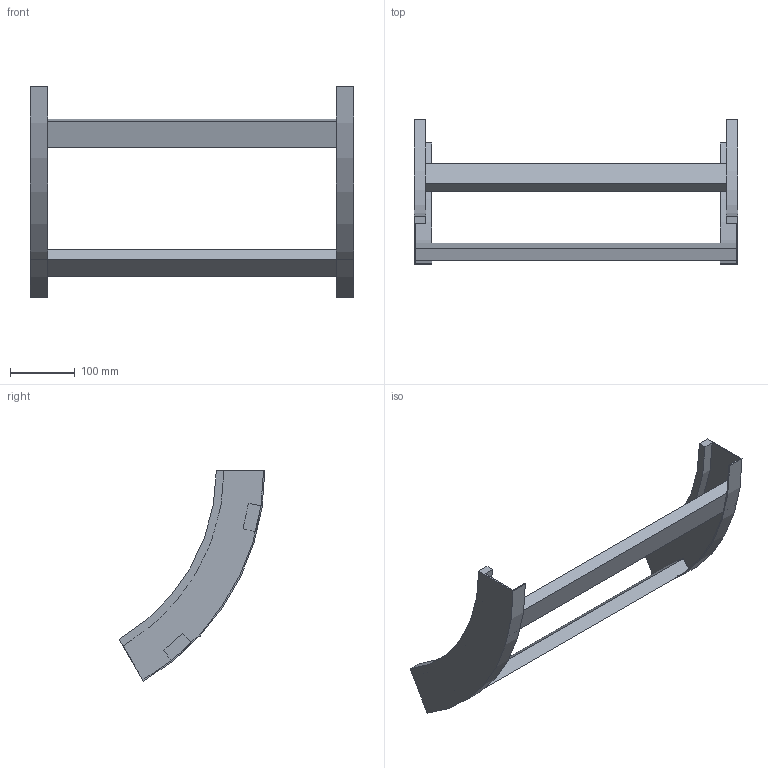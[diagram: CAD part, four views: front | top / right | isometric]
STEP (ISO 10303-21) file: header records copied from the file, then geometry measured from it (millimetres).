
FILE_DESCRIPTION (( 'STEP AP214' ), '1' );
FILE_NAME ('B2X40B3C500XX.step', '2025-03-20T10:17:57', ( '' ), ( '' ), 'SwSTEP 2.0', 'SolidWorks 2023', '' );
FILE_SCHEMA (( 'AUTOMOTIVE_DESIGN' ));
Length unit declared in the file: millimetre
Products named in the file (3): B2_LONGH.SALITA_60°_H75_R300; TRAVERSINO_500; B2X40B3C500XX
Assembly tree (4 placements, depth 2):
  B2X40B3C500XX
    B2_LONGH.SALITA_60°_H75_R300  x2
    TRAVERSINO_500  x2
Bounding box: 500 x 225 x 324.76 mm (x, y, z)
Volume: 1071763.8 mm3; surface area: 293369.7 mm2
Topology: 4 solids, 4 shells, 32 faces, 72 edges, 48 vertices
Faces by surface type: plane 24, cylinder 8
Entity records: 552 total; most frequent: DIRECTION 90, CARTESIAN_POINT 83, ORIENTED_EDGE 72, EDGE_CURVE 36, AXIS2_PLACEMENT_3D 31, VECTOR 28, LINE 28, VERTEX_POINT 24
